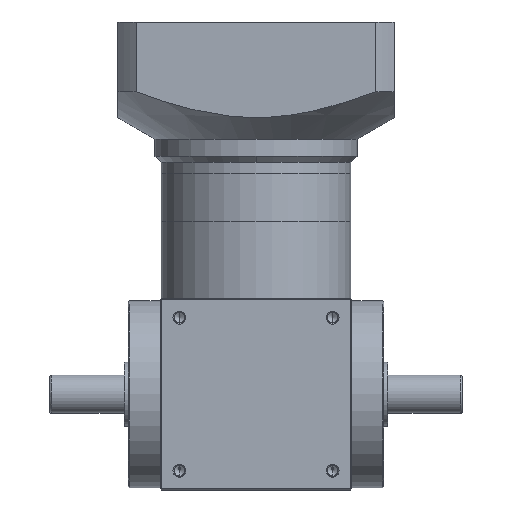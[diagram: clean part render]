
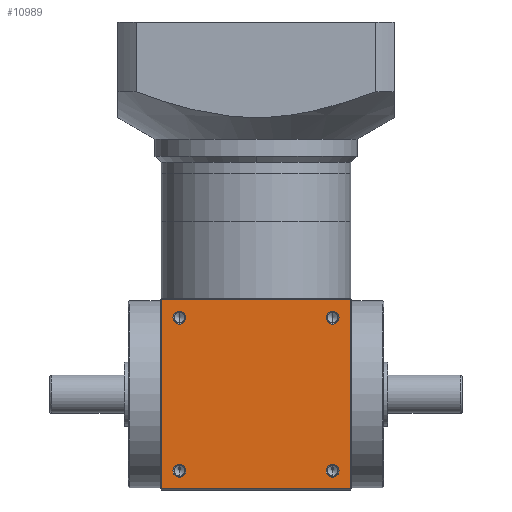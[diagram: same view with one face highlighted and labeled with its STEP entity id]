
A CAD part, front view. The second image highlights one B-rep face of the part: STEP entity #10989.
In plain terms, the highlighted planar face has unit normal (0, -1, 0).
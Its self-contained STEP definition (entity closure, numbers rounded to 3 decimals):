
#185 = VECTOR ( 'NONE', #50428, 1000. ) ;
#555 = CARTESIAN_POINT ( 'NONE',  ( -45., -45., 90. ) ) ;
#1664 = CARTESIAN_POINT ( 'NONE',  ( 36., -45., 9. ) ) ;
#2556 = ORIENTED_EDGE ( 'NONE', *, *, #14976, .F. ) ;
#3638 = DIRECTION ( 'NONE',  ( -1., 0., 0. ) ) ;
#3765 = EDGE_CURVE ( 'NONE', #34007, #6349, #4659, .T. ) ;
#4249 = CARTESIAN_POINT ( 'NONE',  ( -36., -45., 9. ) ) ;
#4468 = CARTESIAN_POINT ( 'NONE',  ( -44.5, -45., 89.5 ) ) ;
#4659 = LINE ( 'NONE', #40333, #27117 ) ;
#5542 = ORIENTED_EDGE ( 'NONE', *, *, #10091, .F. ) ;
#5660 = DIRECTION ( 'NONE',  ( 0., 0., -1. ) ) ;
#6349 = VERTEX_POINT ( 'NONE', #35368 ) ;
#7037 = FACE_BOUND ( 'NONE', #45749, .T. ) ;
#7361 = CIRCLE ( 'NONE', #20053, 3.025 ) ;
#7819 = AXIS2_PLACEMENT_3D ( 'NONE', #1664, #29527, #5660 ) ;
#7937 = VERTEX_POINT ( 'NONE', #15292 ) ;
#8259 = FACE_BOUND ( 'NONE', #28379, .T. ) ;
#8261 = DIRECTION ( 'NONE',  ( 0., 0., -1. ) ) ;
#8551 = DIRECTION ( 'NONE',  ( 0., 0., 1. ) ) ;
#9725 = VECTOR ( 'NONE', #3638, 1000. ) ;
#10091 = EDGE_CURVE ( 'NONE', #22757, #34007, #42504, .T. ) ;
#10350 = CARTESIAN_POINT ( 'NONE',  ( 36., -45., 5.975 ) ) ;
#10389 = VERTEX_POINT ( 'NONE', #36650 ) ;
#10883 = CARTESIAN_POINT ( 'NONE',  ( -45., -45., 89.5 ) ) ;
#10989 = ADVANCED_FACE ( 'NONE', ( #7037, #8259, #38815, #17577, #47991 ), #12348, .F. ) ;
#12348 = PLANE ( 'NONE',  #49846 ) ;
#13132 = CARTESIAN_POINT ( 'NONE',  ( 36., -45., 84.025 ) ) ;
#13260 = AXIS2_PLACEMENT_3D ( 'NONE', #37866, #13956, #41839 ) ;
#13629 = VERTEX_POINT ( 'NONE', #13132 ) ;
#13674 = ORIENTED_EDGE ( 'NONE', *, *, #19476, .F. ) ;
#13956 = DIRECTION ( 'NONE',  ( 0., -1., 0. ) ) ;
#14976 = EDGE_CURVE ( 'NONE', #13629, #38901, #34728, .T. ) ;
#15292 = CARTESIAN_POINT ( 'NONE',  ( -44.5, -45., 0.5 ) ) ;
#15355 = AXIS2_PLACEMENT_3D ( 'NONE', #17452, #45215, #21433 ) ;
#15647 = EDGE_CURVE ( 'NONE', #38901, #13629, #39024, .T. ) ;
#15996 = DIRECTION ( 'NONE',  ( 0., -1., 0. ) ) ;
#16087 = DIRECTION ( 'NONE',  ( 0., -1., 0. ) ) ;
#16592 = DIRECTION ( 'NONE',  ( 0., -1., 0. ) ) ;
#17011 = AXIS2_PLACEMENT_3D ( 'NONE', #39889, #15996, #43803 ) ;
#17234 = DIRECTION ( 'NONE',  ( 0., -1., 0. ) ) ;
#17327 = EDGE_CURVE ( 'NONE', #10389, #51085, #27012, .T. ) ;
#17452 = CARTESIAN_POINT ( 'NONE',  ( -36., -45., 81. ) ) ;
#17577 = FACE_BOUND ( 'NONE', #34644, .T. ) ;
#19212 = CIRCLE ( 'NONE', #46594, 3.025 ) ;
#19476 = EDGE_CURVE ( 'NONE', #24382, #23058, #30932, .T. ) ;
#19741 = CIRCLE ( 'NONE', #15355, 3.025 ) ;
#20053 = AXIS2_PLACEMENT_3D ( 'NONE', #40466, #16592, #44392 ) ;
#21433 = DIRECTION ( 'NONE',  ( 0., 0., -1. ) ) ;
#22757 = VERTEX_POINT ( 'NONE', #4468 ) ;
#22914 = EDGE_CURVE ( 'NONE', #23058, #24382, #31336, .T. ) ;
#23058 = VERTEX_POINT ( 'NONE', #10350 ) ;
#23606 = AXIS2_PLACEMENT_3D ( 'NONE', #41070, #17234, #44998 ) ;
#24382 = VERTEX_POINT ( 'NONE', #27328 ) ;
#24431 = LINE ( 'NONE', #34977, #35044 ) ;
#24747 = ORIENTED_EDGE ( 'NONE', *, *, #17327, .F. ) ;
#25026 = ORIENTED_EDGE ( 'NONE', *, *, #44580, .F. ) ;
#25639 = ORIENTED_EDGE ( 'NONE', *, *, #3765, .F. ) ;
#26351 = EDGE_CURVE ( 'NONE', #7937, #22757, #24431, .T. ) ;
#27012 = CIRCLE ( 'NONE', #13260, 3.025 ) ;
#27117 = VECTOR ( 'NONE', #41682, 1000. ) ;
#27328 = CARTESIAN_POINT ( 'NONE',  ( 36., -45., 12.025 ) ) ;
#28379 = EDGE_LOOP ( 'NONE', ( #41947, #25026 ) ) ;
#29527 = DIRECTION ( 'NONE',  ( 0., -1., 0. ) ) ;
#30136 = CARTESIAN_POINT ( 'NONE',  ( -36., -45., 5.975 ) ) ;
#30359 = CARTESIAN_POINT ( 'NONE',  ( 44.5, -45., 89.5 ) ) ;
#30826 = ORIENTED_EDGE ( 'NONE', *, *, #22914, .F. ) ;
#30932 = CIRCLE ( 'NONE', #17011, 3.025 ) ;
#31336 = CIRCLE ( 'NONE', #7819, 3.025 ) ;
#32137 = DIRECTION ( 'NONE',  ( 0., -1., 0. ) ) ;
#32412 = DIRECTION ( 'NONE',  ( 0., 1., 0. ) ) ;
#32579 = ORIENTED_EDGE ( 'NONE', *, *, #15647, .F. ) ;
#32747 = CARTESIAN_POINT ( 'NONE',  ( -36., -45., 84.025 ) ) ;
#33676 = EDGE_CURVE ( 'NONE', #51085, #10389, #19212, .T. ) ;
#34007 = VERTEX_POINT ( 'NONE', #30359 ) ;
#34644 = EDGE_LOOP ( 'NONE', ( #37182, #24747 ) ) ;
#34728 = CIRCLE ( 'NONE', #50286, 3.025 ) ;
#34977 = CARTESIAN_POINT ( 'NONE',  ( -44.5, -45., 90. ) ) ;
#35044 = VECTOR ( 'NONE', #38974, 1000. ) ;
#35368 = CARTESIAN_POINT ( 'NONE',  ( 44.5, -45., 0.5 ) ) ;
#36650 = CARTESIAN_POINT ( 'NONE',  ( -36., -45., 12.025 ) ) ;
#37182 = ORIENTED_EDGE ( 'NONE', *, *, #33676, .F. ) ;
#37866 = CARTESIAN_POINT ( 'NONE',  ( -36., -45., 9. ) ) ;
#38815 = FACE_BOUND ( 'NONE', #42723, .T. ) ;
#38901 = VERTEX_POINT ( 'NONE', #46254 ) ;
#38974 = DIRECTION ( 'NONE',  ( 0., 0., 1. ) ) ;
#39024 = CIRCLE ( 'NONE', #23606, 3.025 ) ;
#39889 = CARTESIAN_POINT ( 'NONE',  ( 36., -45., 9. ) ) ;
#39982 = CARTESIAN_POINT ( 'NONE',  ( 36., -45., 81. ) ) ;
#40333 = CARTESIAN_POINT ( 'NONE',  ( 44.5, -45., 90. ) ) ;
#40466 = CARTESIAN_POINT ( 'NONE',  ( -36., -45., 81. ) ) ;
#41070 = CARTESIAN_POINT ( 'NONE',  ( 36., -45., 81. ) ) ;
#41682 = DIRECTION ( 'NONE',  ( 0., 0., -1. ) ) ;
#41839 = DIRECTION ( 'NONE',  ( 0., 0., -1. ) ) ;
#41947 = ORIENTED_EDGE ( 'NONE', *, *, #50265, .F. ) ;
#42504 = LINE ( 'NONE', #10883, #185 ) ;
#42723 = EDGE_LOOP ( 'NONE', ( #30826, #13674 ) ) ;
#43803 = DIRECTION ( 'NONE',  ( 0., 0., -1. ) ) ;
#43896 = DIRECTION ( 'NONE',  ( 0., 0., -1. ) ) ;
#44392 = DIRECTION ( 'NONE',  ( 0., 0., -1. ) ) ;
#44463 = ORIENTED_EDGE ( 'NONE', *, *, #51283, .F. ) ;
#44560 = EDGE_LOOP ( 'NONE', ( #44463, #25639, #5542, #47114 ) ) ;
#44580 = EDGE_CURVE ( 'NONE', #50860, #45046, #19741, .T. ) ;
#44998 = DIRECTION ( 'NONE',  ( 0., 0., -1. ) ) ;
#45046 = VERTEX_POINT ( 'NONE', #49128 ) ;
#45215 = DIRECTION ( 'NONE',  ( 0., -1., 0. ) ) ;
#45749 = EDGE_LOOP ( 'NONE', ( #32579, #2556 ) ) ;
#46254 = CARTESIAN_POINT ( 'NONE',  ( 36., -45., 77.975 ) ) ;
#46594 = AXIS2_PLACEMENT_3D ( 'NONE', #4249, #32137, #8261 ) ;
#47114 = ORIENTED_EDGE ( 'NONE', *, *, #26351, .F. ) ;
#47991 = FACE_OUTER_BOUND ( 'NONE', #44560, .T. ) ;
#49128 = CARTESIAN_POINT ( 'NONE',  ( -36., -45., 77.975 ) ) ;
#49846 = AXIS2_PLACEMENT_3D ( 'NONE', #555, #32412, #8551 ) ;
#50265 = EDGE_CURVE ( 'NONE', #45046, #50860, #7361, .T. ) ;
#50286 = AXIS2_PLACEMENT_3D ( 'NONE', #39982, #16087, #43896 ) ;
#50428 = DIRECTION ( 'NONE',  ( 1., 0., 0. ) ) ;
#50704 = LINE ( 'NONE', #51358, #9725 ) ;
#50860 = VERTEX_POINT ( 'NONE', #32747 ) ;
#51085 = VERTEX_POINT ( 'NONE', #30136 ) ;
#51283 = EDGE_CURVE ( 'NONE', #6349, #7937, #50704, .T. ) ;
#51358 = CARTESIAN_POINT ( 'NONE',  ( -45., -45., 0.5 ) ) ;
